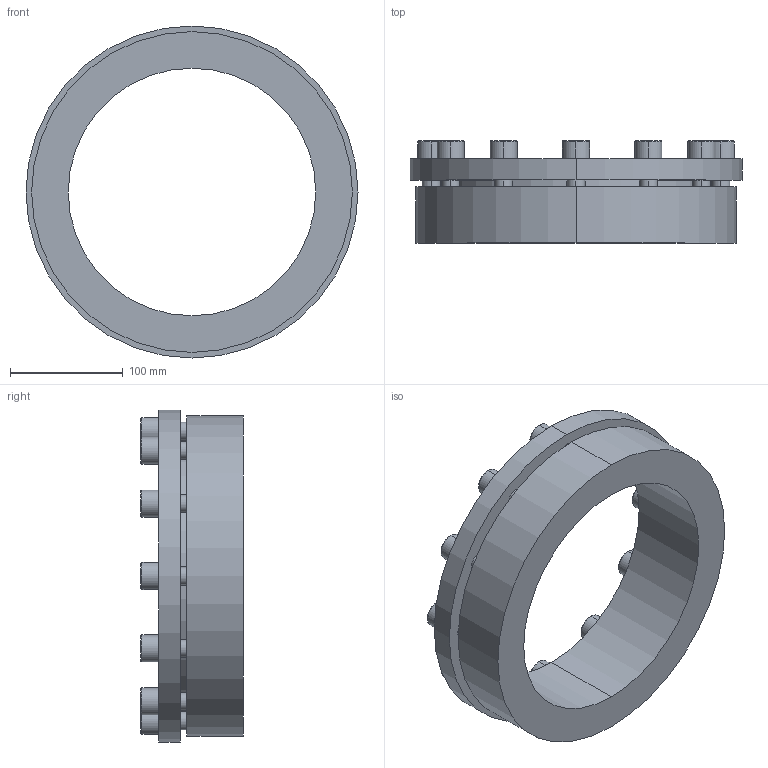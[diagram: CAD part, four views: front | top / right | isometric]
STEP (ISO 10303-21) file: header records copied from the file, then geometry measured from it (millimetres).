
FILE_DESCRIPTION (( 'STEP AP203' ), '1' );
FILE_NAME ('PL-H6 220-285.STEP', '2021-10-23T01:40:12', ( '' ), ( '' ), 'SwSTEP 2.0', 'SolidWorks 2018', '' );
FILE_SCHEMA (( 'CONFIG_CONTROL_DESIGN' ));
Length unit declared in the file: millimetre
Products named in the file (1): PL-H6 220-285
Bounding box: 295 x 91 x 295 mm (x, y, z)
Volume: 1978019.6 mm3; surface area: 239119.7 mm2
Topology: 1 solids, 1 shells, 180 faces, 432 edges, 280 vertices
Faces by surface type: plane 100, cylinder 56, torus 24
Entity records: 5373 total; most frequent: DIRECTION 954, CARTESIAN_POINT 893, ORIENTED_EDGE 864, EDGE_CURVE 432, AXIS2_PLACEMENT_3D 341, VERTEX_POINT 280, LINE 272, VECTOR 272
